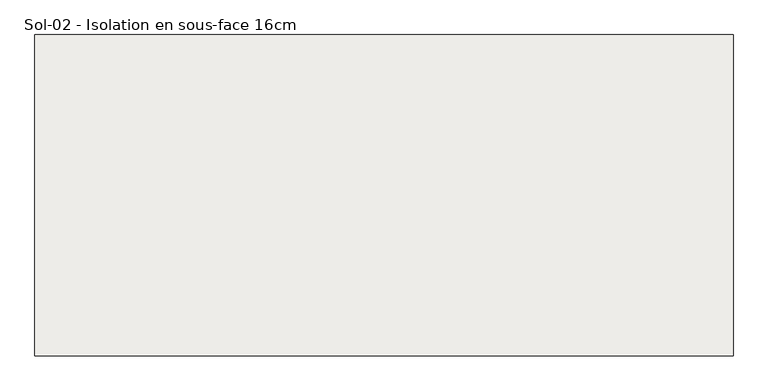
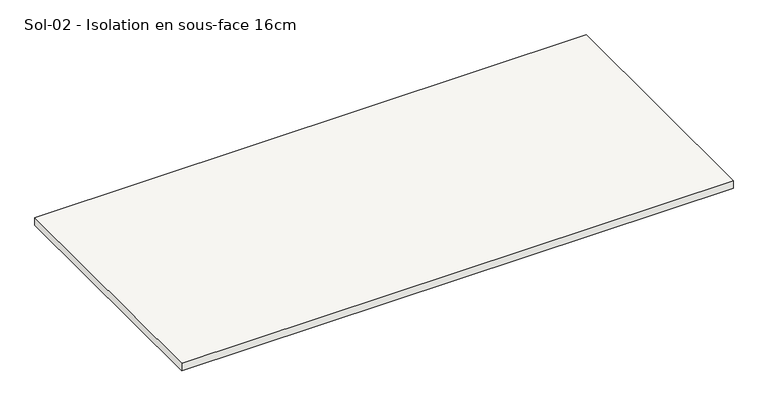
"""IFC4 building model written with IfcOpenShell, lengths in millimetres: slab geometry, Sol-02 - Isolation en sous-face 16cm."""

from ifc_helpers import new_model, si_unit, frame, origin, place, context, project, spatial, polyline, outline, extrude, source, transform, mapped, element, save


def sol_02_isolation_en_sous_face_16cm_6190c43d(model_context):
    return source(origin(), model_context, "Body", "SweptSolid", [
        extrude(outline(polyline([(-36494.9987968, -24851.5656731), (-36494.9987968, -30003.1349959), (-47679.998776, -30003.1349959), (-47679.998776, -24851.5656731), (-36494.9987968, -24851.5656731)])), frame((0.0, 0.0, -470.0), z_axis=(0.0, 0.0, 1.0), x_axis=(1.0, 0.0, 0.0)), (0.0, 0.0, 1.0), 160.0),
    ])


if __name__ == "__main__":
    model = new_model("IFC4")
    model_context = context("Model", 3, world=origin())
    ifc_project = project(units=[si_unit("LENGTHUNIT", "METRE", prefix="MILLI")], contexts=[model_context])
    site = spatial("IfcSite", under=ifc_project)
    building = spatial("IfcBuilding", under=site)
    placement = place(None, origin())
    sol_02_isolation_en_sous_face_16cm_shape = sol_02_isolation_en_sous_face_16cm_6190c43d(model_context)
    element("IfcSlab", 1, ObjectType="Sol-02 - Isolation en sous-face 16cm", at=placement, inside=building, context=model_context, shape_type="MappedRepresentation", body=[
        mapped(sol_02_isolation_en_sous_face_16cm_shape, transform((0.0, 0.0, 0.0), x_axis=(1.0, 0.0, 0.0), y_axis=(0.0, 1.0, 0.0), z_axis=(0.0, 0.0, 1.0))),
    ])
    save(model, "model.ifc")
